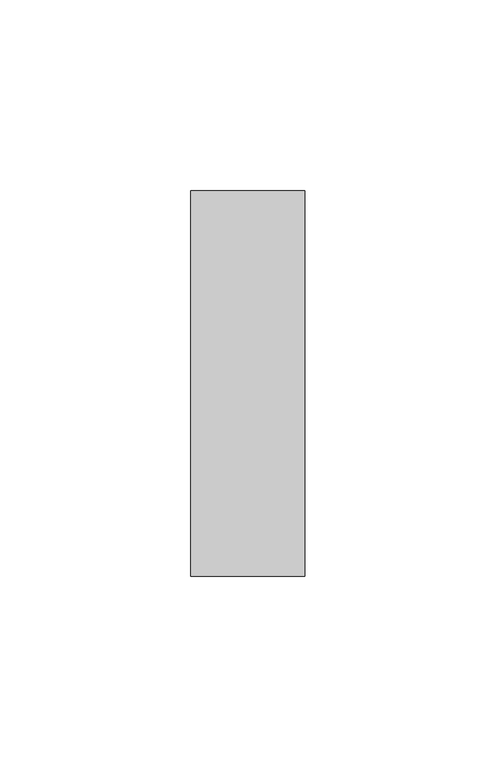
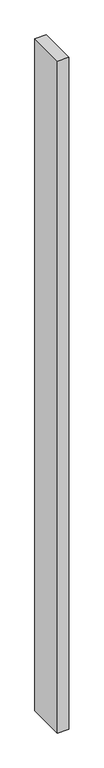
"""IFC4 building model written with IfcOpenShell, lengths in millimetres: furniture geometry, Divisoria_Lateral Fechada : Divisoria_Lateral Fechada_130x180."""

from ifc_helpers import new_model, si_unit, frame, origin, place, context, project, spatial, polyline, outline, extrude, source, transform, mapped, element, save


def furniture_b01e4272(model_context):
    return source(origin(), model_context, "Body", "SweptSolid", [
        extrude(outline(polyline([(59.7003264, -50.0), (29.7003264, -50.0), (29.7003264, 51.1564337), (59.7003264, 51.1564337), (59.7003264, -50.0)])), frame((0.0, 0.0, 50.0), z_axis=(0.0, 0.0, 1.0), x_axis=(1.0, 0.0, 0.0)), (0.0, 0.0, 1.0), 1850.0),
    ])


if __name__ == "__main__":
    model = new_model("IFC4")
    model_context = context("Model", 3, world=origin())
    ifc_project = project(units=[si_unit("LENGTHUNIT", "METRE", prefix="MILLI")], contexts=[model_context])
    site = spatial("IfcSite", under=ifc_project)
    building = spatial("IfcBuilding", under=site)
    placement = place(None, origin())
    furniture_shape = furniture_b01e4272(model_context)
    element("IfcFurniture", 1, ObjectType="Divisoria_Lateral Fechada : Divisoria_Lateral Fechada_130x180", at=placement, inside=building, context=model_context, shape_type="MappedRepresentation", body=[
        mapped(furniture_shape, transform((0.0, 0.0, 0.0), x_axis=(1.0, 0.0, 0.0), y_axis=(0.0, 1.0, 0.0), z_axis=(0.0, 0.0, 1.0))),
    ])
    save(model, "model.ifc")
